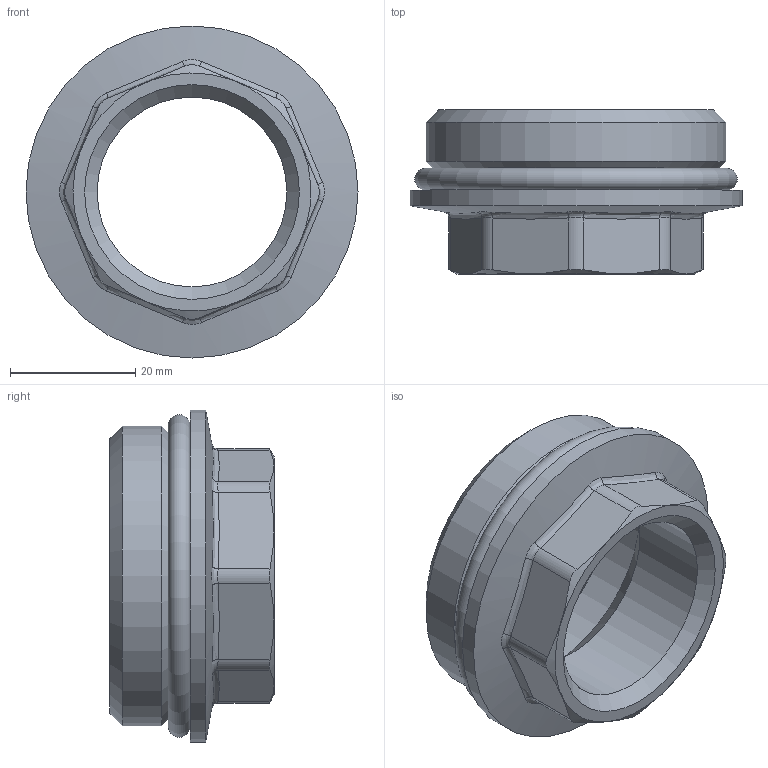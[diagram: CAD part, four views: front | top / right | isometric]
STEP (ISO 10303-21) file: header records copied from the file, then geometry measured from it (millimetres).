
FILE_DESCRIPTION(('STEP AP242'), '1');
FILE_NAME('覆.302634.090.000 捘 - VTr.585.N.0806', '', ('UNSPECIFIED'), ('UNSPECIFIED'), 'C3D Converter', 'C3D Toolkit', '');
FILE_SCHEMA(('AP242_MANAGED_MODEL_BASED_3D_ENGINEERING_MIM_LF { 1 0 10303 442 1 1 4 }'));
Length unit declared in the file: millimetre
Products named in the file (3): ВР.302634.090.000 СБ; ВР.753157.033
Assembly tree (2 placements, depth 2):
  ВР.302634.090.000 СБ
    ВР.753157.033
    (unnamed)
Bounding box: 53 x 26.2 x 53 mm (x, y, z)
Volume: 18975.2 mm3; surface area: 10502.5 mm2
Topology: 2 solids, 2 shells, 51 faces, 127 edges, 81 vertices
Faces by surface type: bspline 16, cylinder 13, plane 11, cone 8, torus 3
Full cylindrical faces by diameter (mm): 30.292 x1, 39.2 x1, 44.5 x1, 47.803 x1, 53 x1
Entity records: 3543 total; most frequent: CARTESIAN_POINT 2401, ORIENTED_EDGE 204, DIRECTION 146, EDGE_CURVE 102, B_SPLINE_CURVE_WITH_KNOTS 69, VERTEX_POINT 68, EDGE_LOOP 66, AXIS2_PLACEMENT_3D 65
